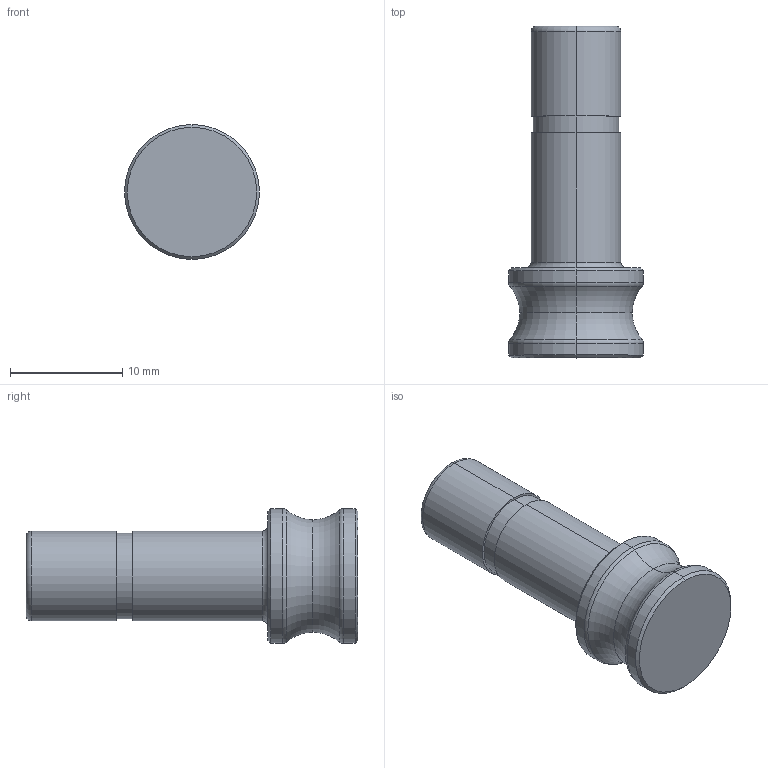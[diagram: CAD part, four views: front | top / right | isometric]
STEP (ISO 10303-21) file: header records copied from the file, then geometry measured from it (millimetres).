
FILE_DESCRIPTION (( 'STEP AP214' ), '1' );
FILE_NAME ('576100001X700.STEP', '2016-05-20T12:25:19', ( '' ), ( '' ), 'SwSTEP 2.0', 'SolidWorks 2016', '' );
FILE_SCHEMA (( 'AUTOMOTIVE_DESIGN' ));
Length unit declared in the file: millimetre
Products named in the file (1): 576100001X700
Bounding box: 12 x 29.5 x 12 mm (x, y, z)
Volume: 1145.7 mm3; surface area: 1515.5 mm2
Topology: 1 solids, 1 shells, 35 faces, 70 edges, 39 vertices
Faces by surface type: torus 12, cylinder 12, cone 6, plane 5
Entity records: 934 total; most frequent: DIRECTION 190, CARTESIAN_POINT 143, ORIENTED_EDGE 136, AXIS2_PLACEMENT_3D 86, EDGE_CURVE 68, CIRCLE 50, VERTEX_POINT 39, EDGE_LOOP 39
